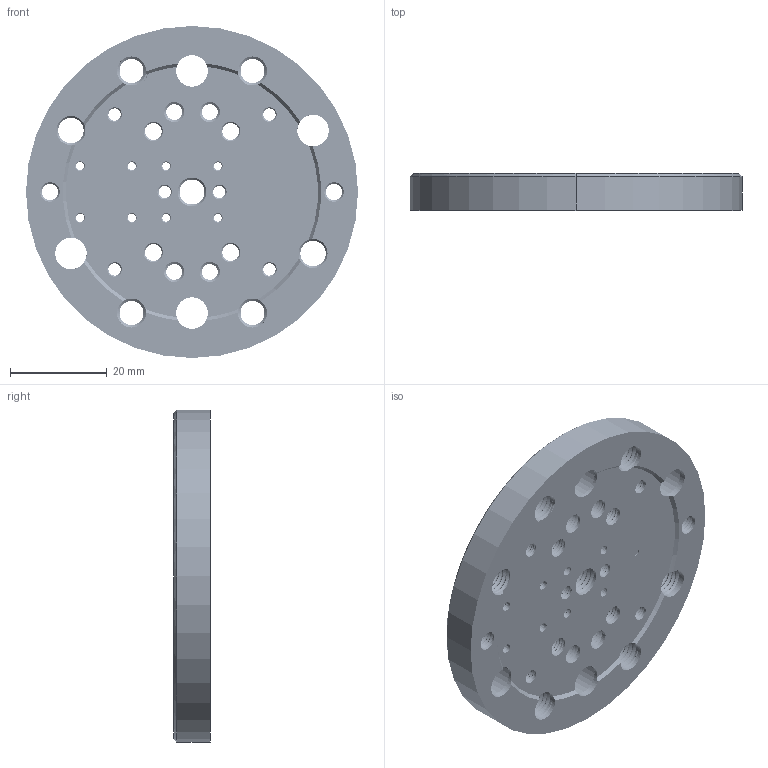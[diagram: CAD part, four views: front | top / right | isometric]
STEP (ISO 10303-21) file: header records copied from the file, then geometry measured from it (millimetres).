
FILE_DESCRIPTION((''),'2;1');
FILE_NAME('OPS-A2','2020-11-05T',('Administrator'),(''),'CREO PARAMETRIC BY PTC INC, 2015290','CREO PARAMETRIC BY PTC INC, 2015290','');
FILE_SCHEMA(('CONFIG_CONTROL_DESIGN'));
Length unit declared in the file: millimetre
Products named in the file (1): OPS-A2
Bounding box: 68.58 x 7.62 x 68.58 mm (x, y, z)
Volume: 21808.4 mm3; surface area: 12291.2 mm2
Topology: 1 solids, 1 shells, 1115 faces, 3409 edges, 2198 vertices
Faces by surface type: cylinder 653, bspline 416, plane 26, cone 20
Entity records: 100820 total; most frequent: CARTESIAN_POINT 75240, ORIENTED_EDGE 6818, EDGE_CURVE 3409, DIRECTION 3010, VERTEX_POINT 2198, B_SPLINE_CURVE_WITH_KNOTS 2014, EDGE_LOOP 1183, VECTOR 1178
